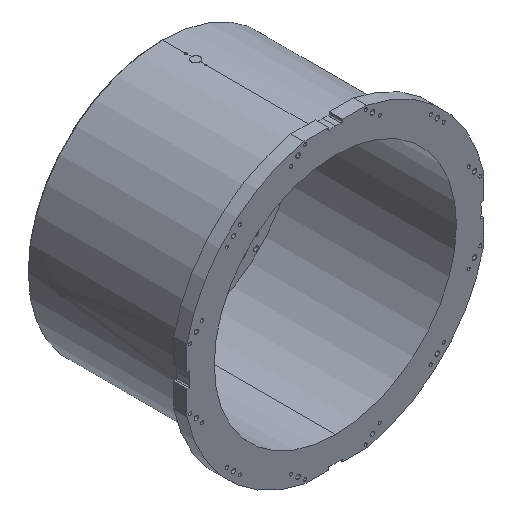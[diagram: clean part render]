
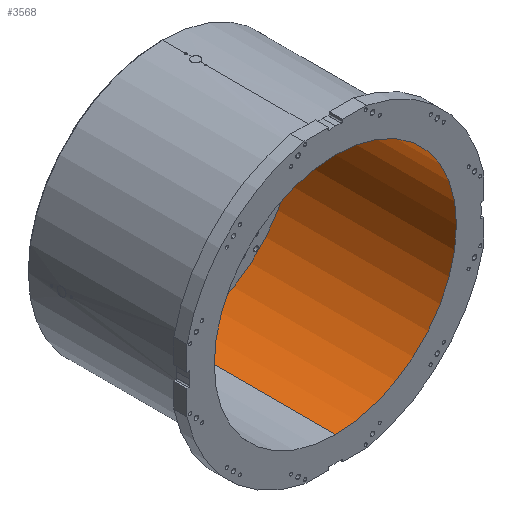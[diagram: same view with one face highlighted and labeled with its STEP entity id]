
A CAD part, isometric view. The second image highlights one B-rep face of the part: STEP entity #3568.
In plain terms, the highlighted cylindrical face has radius 555 mm (diameter 1110 mm), a partial arc.
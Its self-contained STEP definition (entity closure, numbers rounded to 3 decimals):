
#661 = AXIS2_PLACEMENT_3D ( 'NONE', #2667, #9112, #3803 ) ;
#703 = DIRECTION ( 'NONE',  ( 0., 0., -1. ) ) ;
#1447 = ORIENTED_EDGE ( 'NONE', *, *, #5853, .F. ) ;
#1854 = DIRECTION ( 'NONE',  ( 0., -1., 0. ) ) ;
#2162 = ORIENTED_EDGE ( 'NONE', *, *, #10185, .T. ) ;
#2667 = CARTESIAN_POINT ( 'NONE',  ( 0., 744., 0. ) ) ;
#3055 = CARTESIAN_POINT ( 'NONE',  ( 0., 0., 0. ) ) ;
#3568 = ADVANCED_FACE ( 'NONE', ( #4125 ), #9575, .F. ) ;
#3774 = ORIENTED_EDGE ( 'NONE', *, *, #8834, .T. ) ;
#3803 = DIRECTION ( 'NONE',  ( 0., 0., -1. ) ) ;
#3953 = CARTESIAN_POINT ( 'NONE',  ( 0., 0., 0. ) ) ;
#4125 = FACE_OUTER_BOUND ( 'NONE', #4969, .T. ) ;
#4514 = AXIS2_PLACEMENT_3D ( 'NONE', #3055, #1854, #703 ) ;
#4610 = VERTEX_POINT ( 'NONE', #12571 ) ;
#4969 = EDGE_LOOP ( 'NONE', ( #1447, #2162, #7935, #3774 ) ) ;
#5006 = CARTESIAN_POINT ( 'NONE',  ( 0., 0., 555. ) ) ;
#5744 = LINE ( 'NONE', #6869, #7501 ) ;
#5853 = EDGE_CURVE ( 'NONE', #11385, #10601, #13928, .T. ) ;
#6820 = VERTEX_POINT ( 'NONE', #11844 ) ;
#6869 = CARTESIAN_POINT ( 'NONE',  ( 0., 0., -555. ) ) ;
#7005 = CIRCLE ( 'NONE', #661, 555. ) ;
#7038 = VECTOR ( 'NONE', #8266, 1000. ) ;
#7501 = VECTOR ( 'NONE', #9930, 1000. ) ;
#7673 = AXIS2_PLACEMENT_3D ( 'NONE', #3953, #9486, #8494 ) ;
#7935 = ORIENTED_EDGE ( 'NONE', *, *, #11917, .T. ) ;
#8266 = DIRECTION ( 'NONE',  ( 0., -1., 0. ) ) ;
#8494 = DIRECTION ( 'NONE',  ( 0., 0., -1. ) ) ;
#8834 = EDGE_CURVE ( 'NONE', #6820, #10601, #9047, .T. ) ;
#9047 = CIRCLE ( 'NONE', #7673, 555. ) ;
#9112 = DIRECTION ( 'NONE',  ( 0., 1., 0. ) ) ;
#9486 = DIRECTION ( 'NONE',  ( 0., -1., 0. ) ) ;
#9575 = CYLINDRICAL_SURFACE ( 'NONE', #4514, 555. ) ;
#9930 = DIRECTION ( 'NONE',  ( 0., -1., 0. ) ) ;
#10185 = EDGE_CURVE ( 'NONE', #11385, #4610, #7005, .T. ) ;
#10301 = CARTESIAN_POINT ( 'NONE',  ( 0., 744., 555. ) ) ;
#10601 = VERTEX_POINT ( 'NONE', #11124 ) ;
#11124 = CARTESIAN_POINT ( 'NONE',  ( 0., 0., 555. ) ) ;
#11385 = VERTEX_POINT ( 'NONE', #10301 ) ;
#11844 = CARTESIAN_POINT ( 'NONE',  ( 0., 0., -555. ) ) ;
#11917 = EDGE_CURVE ( 'NONE', #4610, #6820, #5744, .T. ) ;
#12571 = CARTESIAN_POINT ( 'NONE',  ( 0., 744., -555. ) ) ;
#13928 = LINE ( 'NONE', #5006, #7038 ) ;
